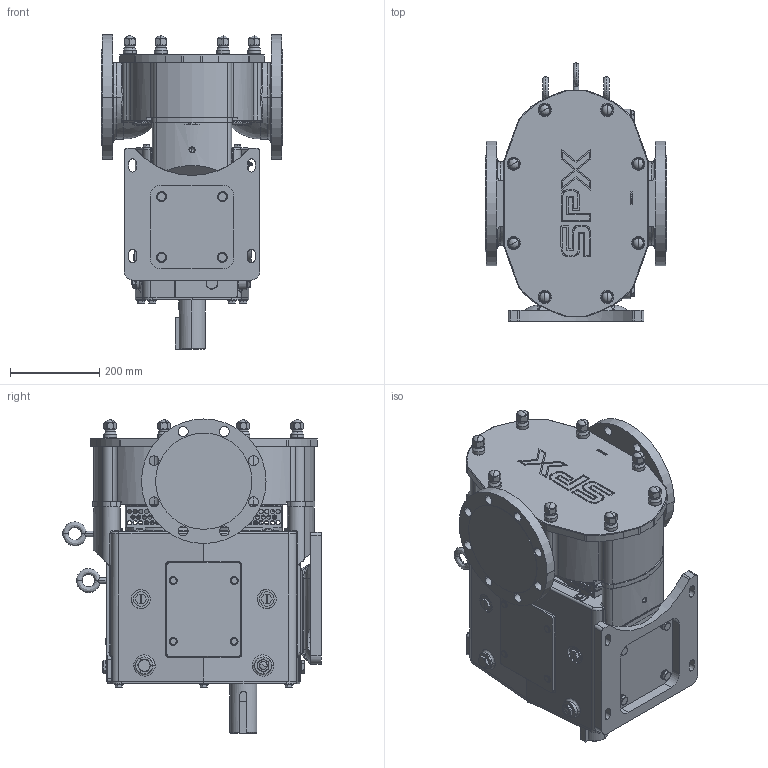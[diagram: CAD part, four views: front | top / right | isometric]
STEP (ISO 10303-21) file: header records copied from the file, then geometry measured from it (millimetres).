
FILE_DESCRIPTION (( 'STEP AP214' ), '1' );
FILE_NAME ('Model 320 Universal 3 Series Lower Drive.STEP', '2017-11-27T17:47:56', ( '' ), ( '' ), 'SwSTEP 2.0', 'SolidWorks 2014', '' );
FILE_SCHEMA (( 'AUTOMOTIVE_DESIGN' ));
Products named in the file (1): Model 320 Universal 3 Series Lower Drive
Bounding box: 406.4 x 579.72 x 704.58 mm (x, y, z)
Volume: 49654716.9 mm3; surface area: 2644482 mm2
Topology: 1 solids, 1 shells, 2851 faces, 7251 edges, 4540 vertices
Faces by surface type: plane 1011, cylinder 986, torus 345, cone 225, bspline 218, sphere 66
Entity records: 103405 total; most frequent: CARTESIAN_POINT 34906, ORIENTED_EDGE 14410, DIRECTION 14391, EDGE_CURVE 7205, AXIS2_PLACEMENT_3D 5591, VERTEX_POINT 4536, EDGE_LOOP 3267, LINE 3209
